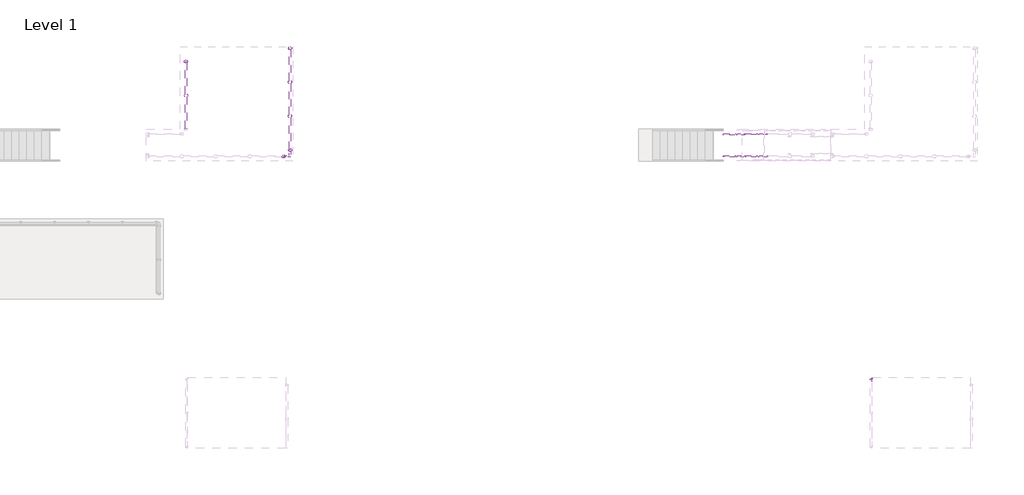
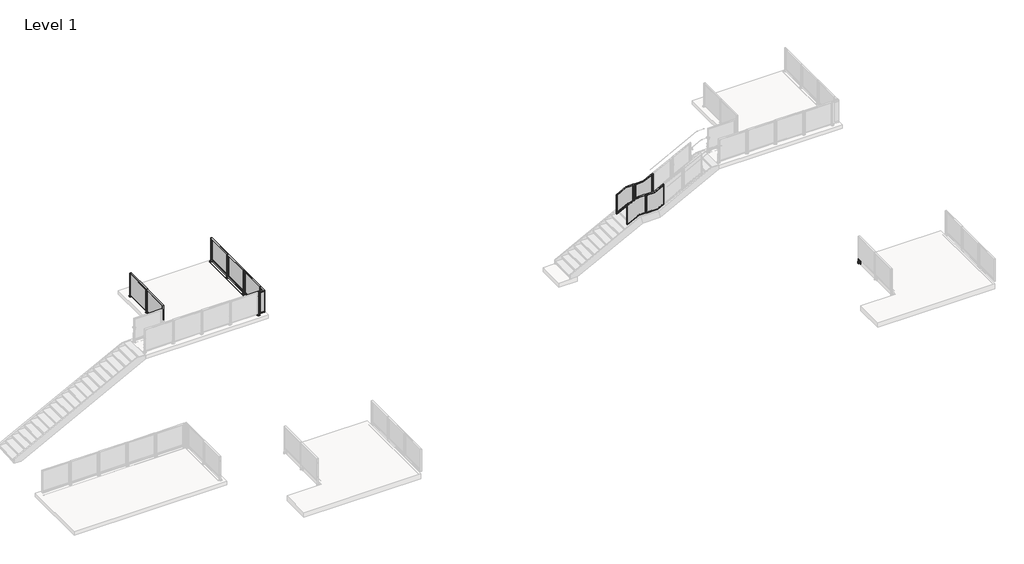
# One storey, part 32 of 37: 7 railings, 5 proxies.
"""IFC4 building model written with IfcOpenShell, lengths in millimetres."""

from ifc_helpers import new_model, si_unit, point, frame, frame_2d, origin, place, context, project, spatial, polyline, circle_curve, trimmed, segment, composite_curve, outline, extrude, faceted_brep, transform, mapped, element, save
from ifc_brep_helpers import plane_surface, cylinder_surface, advanced_brep
from components import baluster_end_post_viva_frame_top_mount_933f940f, baluster_end_post_viva_frame_top_mount_dbc33080, baluster_end_post_viva_frame_top_mount_933cdb12, baluster_end_post_viva_frame_top_mount_welded_fascia_mount_f3869cb3, baluster_corner_panel_viva_frame_inside_standard_882b99be, baluster_landing_panel_viva_frame_lower_standard_pp01_a1165722, baluster_landing_panel_viva_frame_lower_standard_pp01_71fd184b, baluster_landing_panel_viva_frame_upper_standard_pp01_df324889, baluster_landing_panel_viva_frame_upper_standard_pp01_eb854fba

model = new_model("IFC4")

# Units and contexts
model_context = context("Model", 3, world=origin())
ifc_project = project(units=[si_unit("LENGTHUNIT", "METRE", prefix="MILLI")], contexts=[model_context])

# Site, building, storey
site = spatial("IfcSite", under=ifc_project)
building = spatial("IfcBuilding", under=site)
storey = spatial("IfcBuildingStorey", under=building, Name="Level 1", Elevation=0.0)

# Proxies
placement = place(None, origin())
baluster_end_post_viva_frame_top_mount_shape = baluster_end_post_viva_frame_top_mount_933f940f(model_context)
element("IfcBuildingElementProxy", 1, Name="Baluster-End-Post-VIVA-FRAME-Top Mount : CORED INTO CONCRETE_TOP MOUNT FOLD_STRAIGHT", ObjectType="Baluster-End-Post-VIVA-FRAME-Top Mount : CORED INTO CONCRETE_TOP MOUNT FOLD_STRAIGHT", at=placement, inside=storey, context=model_context, shape_type="MappedRepresentation", body=[
    mapped(baluster_end_post_viva_frame_top_mount_shape, transform((-27796.1377244, 8746.3986722, 3047.492), x_axis=(0.0, 1.0, 0.0), y_axis=(-1.0, 0.0, 0.0), z_axis=(0.0, 0.0, 1.0))),
])
baluster_end_post_viva_frame_top_mount_2_shape = baluster_end_post_viva_frame_top_mount_dbc33080(model_context)
element("IfcBuildingElementProxy", 2, Name="Baluster-End-Post-VIVA-FRAME-Top Mount : CORED INTO CONCRETE_TOP MOUNT FOLD_STRAIGHT", ObjectType="Baluster-End-Post-VIVA-FRAME-Top Mount : CORED INTO CONCRETE_TOP MOUNT FOLD_STRAIGHT", at=placement, inside=storey, context=model_context, shape_type="MappedRepresentation", body=[
    mapped(baluster_end_post_viva_frame_top_mount_2_shape, transform((-27936.8813244, 8605.5937722, 3047.492), x_axis=(1.0, 0.0, 0.0), y_axis=(0.0, 1.0, 0.0), z_axis=(0.0, 0.0, 1.0))),
])
baluster_end_post_viva_frame_top_mount_3_shape = baluster_end_post_viva_frame_top_mount_933cdb12(model_context)
element("IfcBuildingElementProxy", 3, Name="Baluster-End-Post-VIVA-FRAME-Top Mount : CORED INTO CONCRETE_TOP MOUNT FOLD_STRAIGHT", ObjectType="Baluster-End-Post-VIVA-FRAME-Top Mount : CORED INTO CONCRETE_TOP MOUNT FOLD_STRAIGHT", at=placement, inside=storey, context=model_context, shape_type="MappedRepresentation", body=[
    mapped(baluster_end_post_viva_frame_top_mount_3_shape, transform((-31485.7754694, 12061.3663722, 3047.492), x_axis=(0.0, -1.0, 0.0), y_axis=(1.0, 0.0, 0.0), z_axis=(0.0, 0.0, 1.0))),
])
element("IfcBuildingElementProxy", 4, Name="Baluster-End-Post-VIVA-FRAME-Top Mount : CORED INTO CONCRETE_TOP MOUNT FOLD_STRAIGHT", ObjectType="Baluster-End-Post-VIVA-FRAME-Top Mount : CORED INTO CONCRETE_TOP MOUNT FOLD_STRAIGHT", at=placement, inside=storey, context=model_context, shape_type="MappedRepresentation", body=[
    mapped(baluster_end_post_viva_frame_top_mount_2_shape, transform((-27796.1377244, 12556.3986722, 3047.492), x_axis=(0.0, 1.0, 0.0), y_axis=(-1.0, 0.0, 0.0), z_axis=(0.0, 0.0, 1.0))),
])
baluster_end_post_viva_frame_top_mount_welded_fascia_mount_shape = baluster_end_post_viva_frame_top_mount_welded_fascia_mount_f3869cb3(model_context)
element("IfcBuildingElementProxy", 5, Name="Baluster-End-Post-VIVA-FRAME-Top Mount : WELDED Fascia MOUNT FOLD_STRAIGHT", ObjectType="Baluster-End-Post-VIVA-FRAME-Top Mount : WELDED Fascia MOUNT FOLD_STRAIGHT", at=placement, inside=storey, context=model_context, shape_type="MappedRepresentation", body=[
    mapped(baluster_end_post_viva_frame_top_mount_welded_fascia_mount_shape, transform((-5845.6776401, 156.9687275, 3047.492), x_axis=(0.0, -1.0, 0.0), y_axis=(1.0, 0.0, 0.0), z_axis=(0.0, 0.0, 1.0))),
])

# Railings
baluster_corner_panel_viva_frame_inside_standard_shape = baluster_corner_panel_viva_frame_inside_standard_882b99be(model_context)
element("IfcRailing", 6, ObjectType="Baluster-Corner-Panel-VIVA-FRAME : Inside_Standard", at=placement, inside=storey, context=model_context, shape_type="MappedRepresentation", body=[
    mapped(baluster_corner_panel_viva_frame_inside_standard_shape, transform((-27670.2299244, 8479.6859722, 3022.346), x_axis=(0.0, 1.0, 0.0), y_axis=(-1.0, 0.0, 0.0), z_axis=(0.0, 0.0, 1.0))),
])
baluster_landing_panel_viva_frame_lower_standard_pp01_shape = baluster_landing_panel_viva_frame_lower_standard_pp01_a1165722(model_context)
element("IfcRailing", 7, ObjectType="Baluster-Landing-Panel-VIVA-FRAME-Lower : Standard_PP01", at=placement, inside=storey, context=model_context, shape_type="MappedRepresentation", body=[
    mapped(baluster_landing_panel_viva_frame_lower_standard_pp01_shape, transform((-11484.6546311, 8477.3668865, 1733.4542898), x_axis=(0.0, 1.0, 0.0), y_axis=(-1.0, 0.0, 0.0), z_axis=(0.0, 0.0, 1.0))),
])
baluster_landing_panel_viva_frame_lower_standard_pp01_2_shape = baluster_landing_panel_viva_frame_lower_standard_pp01_71fd184b(model_context)
element("IfcRailing", 8, ObjectType="Baluster-Landing-Panel-VIVA-FRAME-Lower : Standard_PP01", at=placement, inside=storey, context=model_context, shape_type="MappedRepresentation", body=[
    mapped(baluster_landing_panel_viva_frame_lower_standard_pp01_2_shape, transform((-11484.6546311, 9375.018258, 1733.4542898), x_axis=(0.0, -1.0, 0.0), y_axis=(1.0, 0.0, 0.0), z_axis=(0.0, 0.0, 1.0))),
])
baluster_landing_panel_viva_frame_upper_standard_pp01_shape = baluster_landing_panel_viva_frame_upper_standard_pp01_df324889(model_context)
element("IfcRailing", 9, ObjectType="Baluster-Landing-Panel-VIVA-FRAME-Upper : Standard_PP01", at=placement, inside=storey, context=model_context, shape_type="MappedRepresentation", body=[
    mapped(baluster_landing_panel_viva_frame_upper_standard_pp01_shape, transform((-10816.5460392, 8422.7024722, 1736.2385299), x_axis=(0.0, 1.0, 0.0), y_axis=(-1.0, 0.0, 0.0), z_axis=(0.0, 0.0, 1.0))),
])
baluster_landing_panel_viva_frame_upper_standard_pp01_2_shape = baluster_landing_panel_viva_frame_upper_standard_pp01_eb854fba(model_context)
element("IfcRailing", 10, ObjectType="Baluster-Landing-Panel-VIVA-FRAME-Upper : Standard_PP01", at=placement, inside=storey, context=model_context, shape_type="MappedRepresentation", body=[
    mapped(baluster_landing_panel_viva_frame_upper_standard_pp01_2_shape, transform((-10816.5460392, 9429.6826722, 1736.2385299), x_axis=(0.0, -1.0, 0.0), y_axis=(1.0, 0.0, 0.0), z_axis=(0.0, 0.0, 1.0))),
])
element("IfcRailing", 11, ObjectType="Metal-Panel-VIVA-FRAME-Top_Core-Straight", at=placement, inside=storey, context=model_context, shape_type="SolidModel", body=[
    extrude(outline(composite_curve([segment(trimmed(circle_curve(frame_2d((3047.746, -31485.7754694)), 0.254), [point((3047.746, -31485.5214694))], [point((3047.746, -31486.0294694))], False, "CARTESIAN"), True, "CONTINUOUS"), segment(trimmed(circle_curve(frame_2d((3047.746, -31485.7754694)), 0.254), [point((3047.746, -31486.0294694))], [point((3047.746, -31485.5214694))], False, "CARTESIAN"), True, "CONTINUOUS")], self_intersect=False)), frame((0.0, 9521.3663722, 0.0), z_axis=(0.0, 1.0, 0.0), x_axis=(0.0, 0.0, 1.0)), (0.0, 0.0, 1.0), 2540.0),
    extrude(outline(composite_curve([segment(trimmed(circle_curve(frame_2d((3047.746, -31485.7754694)), 0.254), [point((3047.746, -31485.5214694))], [point((3047.746, -31486.0294694))], False, "CARTESIAN"), True, "CONTINUOUS"), segment(trimmed(circle_curve(frame_2d((3047.746, -31485.7754694)), 0.254), [point((3047.746, -31486.0294694))], [point((3047.746, -31485.5214694))], False, "CARTESIAN"), True, "CONTINUOUS")], self_intersect=False)), frame((0.0, 9521.3663722, 0.0), z_axis=(0.0, 1.0, 0.0), x_axis=(0.0, 0.0, 1.0)), (0.0, 0.0, 1.0), 2540.0),
    extrude(outline(polyline([(-31608.5858694, 10832.1928291), (-31608.5858694, 12020.5399153), (-31605.5858694, 12020.5399153), (-31605.5858694, 10832.1928291), (-31608.5858694, 10832.1928291)])), frame((0.0, 0.0, 3124.1959569), z_axis=(0.0, 0.0, 1.0), x_axis=(1.0, 0.0, 0.0)), (0.0, 0.0, 1.0), 990.5826861),
    faceted_brep([(-31608.5858694, 10806.7928291, 4140.1786431), (-31608.5858694, 12045.9399153, 4140.1786431), (-31608.5858694, 12045.9399153, 3098.7959569), (-31608.5858694, 10806.7928291, 3098.7959569), (-31608.5858694, 10832.1928291, 4114.7786431), (-31608.5858694, 10832.1928291, 3124.1959569), (-31608.5858694, 12020.5399153, 3124.1959569), (-31608.5858694, 12020.5399153, 4114.7786431), (-31605.5858694, 10832.1928291, 3124.1959569), (-31605.5858694, 12020.5399153, 3124.1959569), (-31605.5858694, 12020.5399153, 4114.7786431), (-31605.5858694, 10832.1928291, 4114.7786431), (-31554.7858694, 10812.7872291, 3104.7903569), (-31554.7858694, 12039.9455153, 3104.7903569), (-31585.5960694, 12039.9455153, 3104.7903569), (-31585.5960694, 10812.7872291, 3104.7903569), (-31554.7858694, 12039.9455153, 4134.1842431), (-31585.5960694, 12039.9455153, 4134.1842431), (-31585.5960694, 10812.7872291, 4134.1842431), (-31554.7858694, 10812.7872291, 4134.1842431), (-31554.7858694, 12045.9399153, 3098.7959569), (-31554.7858694, 12045.9399153, 4140.1786431), (-31554.7858694, 10806.7928291, 4140.1786431), (-31554.7858694, 10806.7928291, 3098.7959569), (-31605.5858694, 10857.5928291, 4089.3786431), (-31605.5858694, 10857.5928291, 3149.5959569), (-31605.5858694, 11995.1399153, 3149.5959569), (-31605.5858694, 11995.1399153, 4089.3786431), (-31585.5960694, 11995.1399153, 3149.5959569), (-31585.5960694, 10857.5928291, 3149.5959569), (-31585.5960694, 10857.5928291, 4089.3786431), (-31585.5960694, 11995.1399153, 4089.3786431)], [[[0, 1, 2, 3], [4, 5, 6, 7]], [[5, 8, 9, 6]], [[6, 9, 10, 7]], [[7, 10, 11, 4]], [[4, 11, 8, 5]], [[12, 13, 14, 15]], [[13, 16, 17, 14]], [[15, 18, 19, 12]], [[20, 21, 22, 23], [12, 19, 16, 13]], [[23, 22, 0, 3]], [[23, 3, 2, 20]], [[2, 1, 21, 20]], [[22, 21, 1, 0]], [[11, 10, 9, 8], [24, 25, 26, 27]], [[14, 17, 18, 15], [28, 29, 30, 31]], [[18, 17, 16, 19]], [[27, 31, 30, 24]], [[26, 28, 31, 27]], [[25, 29, 28, 26]], [[24, 30, 29, 25]]]),
    extrude(outline(composite_curve([segment(trimmed(circle_curve(frame_2d((-31581.6858694, 10791.3663722)), 65.8876), [point((-31647.5734694, 10791.3663722))], [point((-31515.7982694, 10791.3663722))], False, "CARTESIAN"), True, "CONTINUOUS"), segment(trimmed(circle_curve(frame_2d((-31581.6858694, 10791.3663722)), 65.8876), [point((-31515.7982694, 10791.3663722))], [point((-31647.5734694, 10791.3663722))], False, "CARTESIAN"), True, "CONTINUOUS")], self_intersect=False)), frame((0.0, 0.0, 3048.0), z_axis=(0.0, 0.0, 1.0), x_axis=(1.0, 0.0, 0.0)), (0.0, 0.0, 1.0), 2.9821299),
    advanced_brep(
    [(-31581.6858694, 10765.1789722, 3178.1496), (-31581.6858694, 10765.1789722, 3187.7), (-31581.6858694, 10765.1789722, 3197.2504), (-31581.6858694, 10769.9541722, 3178.1496), (-31581.6858694, 10769.9541722, 3197.2504), (-31581.6858694, 10769.9541722, 3182.9248), (-31581.6858694, 10769.9541722, 3192.4752), (-31581.6858694, 10812.7785722, 3182.9248), (-31581.6858694, 10812.7785722, 3192.4752), (-31581.6858694, 10812.7785722, 3178.1496), (-31581.6858694, 10812.7785722, 3197.2504), (-31581.6858694, 10817.5537722, 3178.1496), (-31581.6858694, 10817.5537722, 3197.2504), (-31581.6858694, 10817.5537722, 3187.7)],
    [
        (0, 1),
        (1, 2),
        (2, 0, circle_curve(frame((-31581.6858694, 10765.1789722, 3187.7), z_axis=(0.0, -1.0, 0.0), x_axis=(0.0, 0.0, 1.0)), 9.5504)),
        (0, 2, circle_curve(frame((-31581.6858694, 10765.1789722, 3187.7), z_axis=(0.0, -1.0, 0.0), x_axis=(0.0, 0.0, 1.0)), 9.5504)),
        (3, 0),
        (2, 4),
        (4, 3, circle_curve(frame((-31581.6858694, 10769.9541722, 3187.7), z_axis=(0.0, -1.0, 0.0), x_axis=(0.0, 0.0, 1.0)), 9.5504)),
        (3, 4, circle_curve(frame((-31581.6858694, 10769.9541722, 3187.7), z_axis=(0.0, -1.0, 0.0), x_axis=(0.0, 0.0, 1.0)), 9.5504)),
        (5, 3),
        (4, 6),
        (6, 5, circle_curve(frame((-31581.6858694, 10769.9541722, 3187.7), z_axis=(0.0, -1.0, 0.0), x_axis=(0.0, 0.0, 1.0)), 4.7752)),
        (5, 6, circle_curve(frame((-31581.6858694, 10769.9541722, 3187.7), z_axis=(0.0, -1.0, 0.0), x_axis=(0.0, 0.0, 1.0)), 4.7752)),
        (7, 5),
        (6, 8),
        (8, 7, circle_curve(frame((-31581.6858694, 10812.7785722, 3187.7), z_axis=(0.0, -1.0, 0.0), x_axis=(0.0, 0.0, 1.0)), 4.7752)),
        (7, 8, circle_curve(frame((-31581.6858694, 10812.7785722, 3187.7), z_axis=(0.0, -1.0, 0.0), x_axis=(0.0, 0.0, 1.0)), 4.7752)),
        (9, 7),
        (8, 10),
        (10, 9, circle_curve(frame((-31581.6858694, 10812.7785722, 3187.7), z_axis=(0.0, -1.0, 0.0), x_axis=(0.0, 0.0, 1.0)), 9.5504)),
        (9, 10, circle_curve(frame((-31581.6858694, 10812.7785722, 3187.7), z_axis=(0.0, -1.0, 0.0), x_axis=(0.0, 0.0, 1.0)), 9.5504)),
        (11, 9),
        (10, 12),
        (12, 11, circle_curve(frame((-31581.6858694, 10817.5537722, 3187.7), z_axis=(0.0, -1.0, 0.0), x_axis=(0.0, 0.0, 1.0)), 9.5504)),
        (11, 12, circle_curve(frame((-31581.6858694, 10817.5537722, 3187.7), z_axis=(0.0, -1.0, 0.0), x_axis=(0.0, 0.0, 1.0)), 9.5504)),
        (13, 11),
        (12, 13),
    ],
    [
        plane_surface(frame((-31581.6858694, 10765.1789722, 3187.7), z_axis=(0.0, -1.0, 0.0), x_axis=(0.0, 0.0, 1.0))),
        cylinder_surface(frame((-31581.6858694, 7373.5986151, 3187.7), z_axis=(0.0, 1.0, 0.0), x_axis=(0.0, 0.0, 1.0)), 9.5504),
        plane_surface(frame((-31581.6858694, 10769.9541722, 3187.7), z_axis=(0.0, 1.0, 0.0), x_axis=(0.0, 0.0, 1.0))),
        cylinder_surface(frame((-31581.6858694, 7373.5986151, 3187.7), z_axis=(0.0, 1.0, 0.0), x_axis=(0.0, 0.0, 1.0)), 4.7752),
        plane_surface(frame((-31581.6858694, 10812.7785722, 3187.7), z_axis=(0.0, -1.0, 0.0), x_axis=(0.0, 0.0, 1.0))),
        plane_surface(frame((-31581.6858694, 10817.5537722, 3187.7), z_axis=(0.0, 1.0, 0.0), x_axis=(0.0, 0.0, 1.0))),
    ],
    [
        (0, [[1, 2, 3]]),
        (0, [[-2, -1, 4]]),
        (1, [[5, -3, 6, 7]]),
        (1, [[-6, -4, -5, 8]]),
        (2, [[9, -7, 10, 11]]),
        (2, [[-10, -8, -9, 12]]),
        (3, [[13, -11, 14, 15]]),
        (3, [[-14, -12, -13, 16]]),
        (4, [[17, -15, 18, 19]]),
        (4, [[-18, -16, -17, 20]]),
        (1, [[21, -19, 22, 23]]),
        (1, [[-22, -20, -21, 24]]),
        (5, [[25, -23, 26]]),
        (5, [[-26, -24, -25]]),
    ],
),
    advanced_brep(
    [(-31581.6858694, 10765.1789722, 3419.4496), (-31581.6858694, 10765.1789722, 3429.0), (-31581.6858694, 10765.1789722, 3438.5504), (-31581.6858694, 10769.9541722, 3419.4496), (-31581.6858694, 10769.9541722, 3438.5504), (-31581.6858694, 10769.9541722, 3424.2248), (-31581.6858694, 10769.9541722, 3433.7752), (-31581.6858694, 10812.7785722, 3424.2248), (-31581.6858694, 10812.7785722, 3433.7752), (-31581.6858694, 10812.7785722, 3419.4496), (-31581.6858694, 10812.7785722, 3438.5504), (-31581.6858694, 10817.5537722, 3419.4496), (-31581.6858694, 10817.5537722, 3438.5504), (-31581.6858694, 10817.5537722, 3429.0)],
    [
        (0, 1),
        (1, 2),
        (2, 0, circle_curve(frame((-31581.6858694, 10765.1789722, 3429.0), z_axis=(0.0, -1.0, 0.0), x_axis=(0.0, 0.0, 1.0)), 9.5504)),
        (0, 2, circle_curve(frame((-31581.6858694, 10765.1789722, 3429.0), z_axis=(0.0, -1.0, 0.0), x_axis=(0.0, 0.0, 1.0)), 9.5504)),
        (3, 0),
        (2, 4),
        (4, 3, circle_curve(frame((-31581.6858694, 10769.9541722, 3429.0), z_axis=(0.0, -1.0, 0.0), x_axis=(0.0, 0.0, 1.0)), 9.5504)),
        (3, 4, circle_curve(frame((-31581.6858694, 10769.9541722, 3429.0), z_axis=(0.0, -1.0, 0.0), x_axis=(0.0, 0.0, 1.0)), 9.5504)),
        (5, 3),
        (4, 6),
        (6, 5, circle_curve(frame((-31581.6858694, 10769.9541722, 3429.0), z_axis=(0.0, -1.0, 0.0), x_axis=(0.0, 0.0, 1.0)), 4.7752)),
        (5, 6, circle_curve(frame((-31581.6858694, 10769.9541722, 3429.0), z_axis=(0.0, -1.0, 0.0), x_axis=(0.0, 0.0, 1.0)), 4.7752)),
        (7, 5),
        (6, 8),
        (8, 7, circle_curve(frame((-31581.6858694, 10812.7785722, 3429.0), z_axis=(0.0, -1.0, 0.0), x_axis=(0.0, 0.0, 1.0)), 4.7752)),
        (7, 8, circle_curve(frame((-31581.6858694, 10812.7785722, 3429.0), z_axis=(0.0, -1.0, 0.0), x_axis=(0.0, 0.0, 1.0)), 4.7752)),
        (9, 7),
        (8, 10),
        (10, 9, circle_curve(frame((-31581.6858694, 10812.7785722, 3429.0), z_axis=(0.0, -1.0, 0.0), x_axis=(0.0, 0.0, 1.0)), 9.5504)),
        (9, 10, circle_curve(frame((-31581.6858694, 10812.7785722, 3429.0), z_axis=(0.0, -1.0, 0.0), x_axis=(0.0, 0.0, 1.0)), 9.5504)),
        (11, 9),
        (10, 12),
        (12, 11, circle_curve(frame((-31581.6858694, 10817.5537722, 3429.0), z_axis=(0.0, -1.0, 0.0), x_axis=(0.0, 0.0, 1.0)), 9.5504)),
        (11, 12, circle_curve(frame((-31581.6858694, 10817.5537722, 3429.0), z_axis=(0.0, -1.0, 0.0), x_axis=(0.0, 0.0, 1.0)), 9.5504)),
        (13, 11),
        (12, 13),
    ],
    [
        plane_surface(frame((-31581.6858694, 10765.1789722, 3429.0), z_axis=(0.0, -1.0, 0.0), x_axis=(0.0, 0.0, 1.0))),
        cylinder_surface(frame((-31581.6858694, 7373.5986151, 3429.0), z_axis=(0.0, 1.0, 0.0), x_axis=(0.0, 0.0, 1.0)), 9.5504),
        plane_surface(frame((-31581.6858694, 10769.9541722, 3429.0), z_axis=(0.0, 1.0, 0.0), x_axis=(0.0, 0.0, 1.0))),
        cylinder_surface(frame((-31581.6858694, 7373.5986151, 3429.0), z_axis=(0.0, 1.0, 0.0), x_axis=(0.0, 0.0, 1.0)), 4.7752),
        plane_surface(frame((-31581.6858694, 10812.7785722, 3429.0), z_axis=(0.0, -1.0, 0.0), x_axis=(0.0, 0.0, 1.0))),
        plane_surface(frame((-31581.6858694, 10817.5537722, 3429.0), z_axis=(0.0, 1.0, 0.0), x_axis=(0.0, 0.0, 1.0))),
    ],
    [
        (0, [[1, 2, 3]]),
        (0, [[-2, -1, 4]]),
        (1, [[5, -3, 6, 7]]),
        (1, [[-6, -4, -5, 8]]),
        (2, [[9, -7, 10, 11]]),
        (2, [[-10, -8, -9, 12]]),
        (3, [[13, -11, 14, 15]]),
        (3, [[-14, -12, -13, 16]]),
        (4, [[17, -15, 18, 19]]),
        (4, [[-18, -16, -17, 20]]),
        (1, [[21, -19, 22, 23]]),
        (1, [[-22, -20, -21, 24]]),
        (5, [[25, -23, 26]]),
        (5, [[-26, -24, -25]]),
    ],
),
    extrude(outline(polyline([(-31559.4608694, 10783.4267806), (-31603.9108694, 10783.4267806), (-31603.9108694, 10799.3059639), (-31559.4608694, 10799.3059639), (-31559.4608694, 10783.4267806)])), frame((0.0, 0.0, 2946.4), z_axis=(0.0, 0.0, 1.0), x_axis=(1.0, 0.0, 0.0)), (0.0, 0.0, 1.0), 508.0),
    extrude(outline(polyline([(-31608.5858694, 9562.1928291), (-31608.5858694, 10750.5399153), (-31605.5858694, 10750.5399153), (-31605.5858694, 9562.1928291), (-31608.5858694, 9562.1928291)])), frame((0.0, 0.0, 3124.1959569), z_axis=(0.0, 0.0, 1.0), x_axis=(1.0, 0.0, 0.0)), (0.0, 0.0, 1.0), 990.5826861),
    faceted_brep([(-31608.5858694, 9536.7928291, 4140.1786431), (-31608.5858694, 10775.9399153, 4140.1786431), (-31608.5858694, 10775.9399153, 3098.7959569), (-31608.5858694, 9536.7928291, 3098.7959569), (-31608.5858694, 9562.1928291, 4114.7786431), (-31608.5858694, 9562.1928291, 3124.1959569), (-31608.5858694, 10750.5399153, 3124.1959569), (-31608.5858694, 10750.5399153, 4114.7786431), (-31605.5858694, 9562.1928291, 3124.1959569), (-31605.5858694, 10750.5399153, 3124.1959569), (-31605.5858694, 10750.5399153, 4114.7786431), (-31605.5858694, 9562.1928291, 4114.7786431), (-31554.7858694, 9542.7872291, 3104.7903569), (-31554.7858694, 10769.9455153, 3104.7903569), (-31585.5960694, 10769.9455153, 3104.7903569), (-31585.5960694, 9542.7872291, 3104.7903569), (-31554.7858694, 10769.9455153, 4134.1842431), (-31585.5960694, 10769.9455153, 4134.1842431), (-31585.5960694, 9542.7872291, 4134.1842431), (-31554.7858694, 9542.7872291, 4134.1842431), (-31554.7858694, 10775.9399153, 3098.7959569), (-31554.7858694, 10775.9399153, 4140.1786431), (-31554.7858694, 9536.7928291, 4140.1786431), (-31554.7858694, 9536.7928291, 3098.7959569), (-31605.5858694, 9587.5928291, 4089.3786431), (-31605.5858694, 9587.5928291, 3149.5959569), (-31605.5858694, 10725.1399153, 3149.5959569), (-31605.5858694, 10725.1399153, 4089.3786431), (-31585.5960694, 10725.1399153, 3149.5959569), (-31585.5960694, 9587.5928291, 3149.5959569), (-31585.5960694, 9587.5928291, 4089.3786431), (-31585.5960694, 10725.1399153, 4089.3786431)], [[[0, 1, 2, 3], [4, 5, 6, 7]], [[5, 8, 9, 6]], [[6, 9, 10, 7]], [[7, 10, 11, 4]], [[4, 11, 8, 5]], [[12, 13, 14, 15]], [[13, 16, 17, 14]], [[15, 18, 19, 12]], [[20, 21, 22, 23], [12, 19, 16, 13]], [[23, 22, 0, 3]], [[23, 3, 2, 20]], [[2, 1, 21, 20]], [[22, 21, 1, 0]], [[11, 10, 9, 8], [24, 25, 26, 27]], [[14, 17, 18, 15], [28, 29, 30, 31]], [[18, 17, 16, 19]], [[27, 31, 30, 24]], [[26, 28, 31, 27]], [[25, 29, 28, 26]], [[24, 30, 29, 25]]]),
])
element("IfcRailing", 12, ObjectType="Metal-Panel-VIVA-FRAME-Top_Core-Straight", at=placement, inside=storey, context=model_context, shape_type="SolidModel", body=[
    extrude(outline(composite_curve([segment(trimmed(circle_curve(frame_2d((3047.746, -27796.1377244)), 0.254), [point((3047.746, -27795.8837244))], [point((3047.746, -27796.3917244))], False, "CARTESIAN"), True, "CONTINUOUS"), segment(trimmed(circle_curve(frame_2d((3047.746, -27796.1377244)), 0.254), [point((3047.746, -27796.3917244))], [point((3047.746, -27795.8837244))], False, "CARTESIAN"), True, "CONTINUOUS")], self_intersect=False)), frame((0.0, 8746.3986722, 0.0), z_axis=(0.0, 1.0, 0.0), x_axis=(0.0, 0.0, 1.0)), (0.0, 0.0, 1.0), 3810.0),
    extrude(outline(composite_curve([segment(trimmed(circle_curve(frame_2d((3047.746, -27796.1377244)), 0.254), [point((3047.746, -27795.8837244))], [point((3047.746, -27796.3917244))], False, "CARTESIAN"), True, "CONTINUOUS"), segment(trimmed(circle_curve(frame_2d((3047.746, -27796.1377244)), 0.254), [point((3047.746, -27796.3917244))], [point((3047.746, -27795.8837244))], False, "CARTESIAN"), True, "CONTINUOUS")], self_intersect=False)), frame((0.0, 8746.3986722, 0.0), z_axis=(0.0, 1.0, 0.0), x_axis=(0.0, 0.0, 1.0)), (0.0, 0.0, 1.0), 3810.0),
    extrude(outline(polyline([(-27673.3273244, 11327.2251291), (-27676.3273244, 11327.2251291), (-27676.3273244, 12515.5722153), (-27673.3273244, 12515.5722153), (-27673.3273244, 11327.2251291)])), frame((0.0, 0.0, 3124.1959569), z_axis=(0.0, 0.0, 1.0), x_axis=(1.0, 0.0, 0.0)), (0.0, 0.0, 1.0), 990.5826861),
    faceted_brep([(-27673.3273244, 11301.8251291, 4140.1786431), (-27673.3273244, 11301.8251291, 3098.7959569), (-27673.3273244, 12540.9722153, 3098.7959569), (-27673.3273244, 12540.9722153, 4140.1786431), (-27673.3273244, 11327.2251291, 4114.7786431), (-27673.3273244, 12515.5722153, 4114.7786431), (-27673.3273244, 12515.5722153, 3124.1959569), (-27673.3273244, 11327.2251291, 3124.1959569), (-27676.3273244, 12515.5722153, 3124.1959569), (-27676.3273244, 11327.2251291, 3124.1959569), (-27676.3273244, 12515.5722153, 4114.7786431), (-27676.3273244, 11327.2251291, 4114.7786431), (-27727.1273244, 11307.8195291, 3104.7903569), (-27696.3171244, 11307.8195291, 3104.7903569), (-27696.3171244, 12534.9778153, 3104.7903569), (-27727.1273244, 12534.9778153, 3104.7903569), (-27696.3171244, 12534.9778153, 4134.1842431), (-27727.1273244, 12534.9778153, 4134.1842431), (-27727.1273244, 11307.8195291, 4134.1842431), (-27696.3171244, 11307.8195291, 4134.1842431), (-27727.1273244, 12540.9722153, 3098.7959569), (-27727.1273244, 11301.8251291, 3098.7959569), (-27727.1273244, 11301.8251291, 4140.1786431), (-27727.1273244, 12540.9722153, 4140.1786431), (-27676.3273244, 11352.6251291, 4089.3786431), (-27676.3273244, 12490.1722153, 4089.3786431), (-27676.3273244, 12490.1722153, 3149.5959569), (-27676.3273244, 11352.6251291, 3149.5959569), (-27696.3171244, 12490.1722153, 3149.5959569), (-27696.3171244, 12490.1722153, 4089.3786431), (-27696.3171244, 11352.6251291, 4089.3786431), (-27696.3171244, 11352.6251291, 3149.5959569)], [[[0, 1, 2, 3], [4, 5, 6, 7]], [[7, 6, 8, 9]], [[6, 5, 10, 8]], [[5, 4, 11, 10]], [[4, 7, 9, 11]], [[12, 13, 14, 15]], [[15, 14, 16, 17]], [[13, 12, 18, 19]], [[20, 21, 22, 23], [12, 15, 17, 18]], [[21, 1, 0, 22]], [[21, 20, 2, 1]], [[2, 20, 23, 3]], [[22, 0, 3, 23]], [[11, 9, 8, 10], [24, 25, 26, 27]], [[14, 13, 19, 16], [28, 29, 30, 31]], [[19, 18, 17, 16]], [[25, 24, 30, 29]], [[26, 25, 29, 28]], [[27, 26, 28, 31]], [[24, 27, 31, 30]]]),
    extrude(outline(composite_curve([segment(trimmed(circle_curve(frame_2d((-27700.2273244, 11286.3986722)), 65.8876), [point((-27634.3397244, 11286.3986722))], [point((-27766.1149244, 11286.3986722))], False, "CARTESIAN"), True, "CONTINUOUS"), segment(trimmed(circle_curve(frame_2d((-27700.2273244, 11286.3986722)), 65.8876), [point((-27766.1149244, 11286.3986722))], [point((-27634.3397244, 11286.3986722))], False, "CARTESIAN"), True, "CONTINUOUS")], self_intersect=False)), frame((0.0, 0.0, 3048.0), z_axis=(0.0, 0.0, 1.0), x_axis=(1.0, 0.0, 0.0)), (0.0, 0.0, 1.0), 2.9821299),
    advanced_brep(
    [(-27700.2273244, 11260.2112722, 3178.1496), (-27700.2273244, 11260.2112722, 3197.2504), (-27700.2273244, 11260.2112722, 3187.7), (-27700.2273244, 11264.9864722, 3178.1496), (-27700.2273244, 11264.9864722, 3197.2504), (-27700.2273244, 11264.9864722, 3182.9248), (-27700.2273244, 11264.9864722, 3192.4752), (-27700.2273244, 11307.8108722, 3182.9248), (-27700.2273244, 11307.8108722, 3192.4752), (-27700.2273244, 11307.8108722, 3178.1496), (-27700.2273244, 11307.8108722, 3197.2504), (-27700.2273244, 11312.5860722, 3178.1496), (-27700.2273244, 11312.5860722, 3197.2504), (-27700.2273244, 11312.5860722, 3187.7)],
    [
        (0, 1, circle_curve(frame((-27700.2273244, 11260.2112722, 3187.7), z_axis=(0.0, -1.0, 0.0), x_axis=(0.0, 0.0, 1.0)), 9.5504)),
        (1, 2),
        (2, 0),
        (1, 0, circle_curve(frame((-27700.2273244, 11260.2112722, 3187.7), z_axis=(0.0, -1.0, 0.0), x_axis=(0.0, 0.0, 1.0)), 9.5504)),
        (3, 4, circle_curve(frame((-27700.2273244, 11264.9864722, 3187.7), z_axis=(0.0, -1.0, 0.0), x_axis=(0.0, 0.0, 1.0)), 9.5504)),
        (4, 1),
        (0, 3),
        (4, 3, circle_curve(frame((-27700.2273244, 11264.9864722, 3187.7), z_axis=(0.0, -1.0, 0.0), x_axis=(0.0, 0.0, 1.0)), 9.5504)),
        (5, 6, circle_curve(frame((-27700.2273244, 11264.9864722, 3187.7), z_axis=(0.0, -1.0, 0.0), x_axis=(0.0, 0.0, 1.0)), 4.7752)),
        (6, 4),
        (3, 5),
        (6, 5, circle_curve(frame((-27700.2273244, 11264.9864722, 3187.7), z_axis=(0.0, -1.0, 0.0), x_axis=(0.0, 0.0, 1.0)), 4.7752)),
        (7, 8, circle_curve(frame((-27700.2273244, 11307.8108722, 3187.7), z_axis=(0.0, -1.0, 0.0), x_axis=(0.0, 0.0, 1.0)), 4.7752)),
        (8, 6),
        (5, 7),
        (8, 7, circle_curve(frame((-27700.2273244, 11307.8108722, 3187.7), z_axis=(0.0, -1.0, 0.0), x_axis=(0.0, 0.0, 1.0)), 4.7752)),
        (9, 10, circle_curve(frame((-27700.2273244, 11307.8108722, 3187.7), z_axis=(0.0, -1.0, 0.0), x_axis=(0.0, 0.0, 1.0)), 9.5504)),
        (10, 8),
        (7, 9),
        (10, 9, circle_curve(frame((-27700.2273244, 11307.8108722, 3187.7), z_axis=(0.0, -1.0, 0.0), x_axis=(0.0, 0.0, 1.0)), 9.5504)),
        (11, 12, circle_curve(frame((-27700.2273244, 11312.5860722, 3187.7), z_axis=(0.0, -1.0, 0.0), x_axis=(0.0, 0.0, 1.0)), 9.5504)),
        (12, 10),
        (9, 11),
        (12, 11, circle_curve(frame((-27700.2273244, 11312.5860722, 3187.7), z_axis=(0.0, -1.0, 0.0), x_axis=(0.0, 0.0, 1.0)), 9.5504)),
        (13, 12),
        (11, 13),
    ],
    [
        plane_surface(frame((-27700.2273244, 11260.2112722, 3187.7), z_axis=(0.0, -1.0, 0.0), x_axis=(0.0, 0.0, 1.0))),
        cylinder_surface(frame((-27700.2273244, 7868.6309151, 3187.7), z_axis=(0.0, 1.0, 0.0), x_axis=(0.0, 0.0, 1.0)), 9.5504),
        plane_surface(frame((-27700.2273244, 11264.9864722, 3187.7), z_axis=(0.0, 1.0, 0.0), x_axis=(0.0, 0.0, 1.0))),
        cylinder_surface(frame((-27700.2273244, 7868.6309151, 3187.7), z_axis=(0.0, 1.0, 0.0), x_axis=(0.0, 0.0, 1.0)), 4.7752),
        plane_surface(frame((-27700.2273244, 11307.8108722, 3187.7), z_axis=(0.0, -1.0, 0.0), x_axis=(0.0, 0.0, 1.0))),
        plane_surface(frame((-27700.2273244, 11312.5860722, 3187.7), z_axis=(0.0, 1.0, 0.0), x_axis=(0.0, 0.0, 1.0))),
    ],
    [
        (0, [[1, 2, 3]]),
        (0, [[4, -3, -2]]),
        (1, [[5, 6, -1, 7]]),
        (1, [[8, -7, -4, -6]]),
        (2, [[9, 10, -5, 11]]),
        (2, [[12, -11, -8, -10]]),
        (3, [[13, 14, -9, 15]]),
        (3, [[16, -15, -12, -14]]),
        (4, [[17, 18, -13, 19]]),
        (4, [[20, -19, -16, -18]]),
        (1, [[21, 22, -17, 23]]),
        (1, [[24, -23, -20, -22]]),
        (5, [[25, -21, 26]]),
        (5, [[-26, -24, -25]]),
    ],
),
    advanced_brep(
    [(-27700.2273244, 11260.2112722, 3419.4496), (-27700.2273244, 11260.2112722, 3438.5504), (-27700.2273244, 11260.2112722, 3429.0), (-27700.2273244, 11264.9864722, 3419.4496), (-27700.2273244, 11264.9864722, 3438.5504), (-27700.2273244, 11264.9864722, 3424.2248), (-27700.2273244, 11264.9864722, 3433.7752), (-27700.2273244, 11307.8108722, 3424.2248), (-27700.2273244, 11307.8108722, 3433.7752), (-27700.2273244, 11307.8108722, 3419.4496), (-27700.2273244, 11307.8108722, 3438.5504), (-27700.2273244, 11312.5860722, 3419.4496), (-27700.2273244, 11312.5860722, 3438.5504), (-27700.2273244, 11312.5860722, 3429.0)],
    [
        (0, 1, circle_curve(frame((-27700.2273244, 11260.2112722, 3429.0), z_axis=(0.0, -1.0, 0.0), x_axis=(0.0, 0.0, 1.0)), 9.5504)),
        (1, 2),
        (2, 0),
        (1, 0, circle_curve(frame((-27700.2273244, 11260.2112722, 3429.0), z_axis=(0.0, -1.0, 0.0), x_axis=(0.0, 0.0, 1.0)), 9.5504)),
        (3, 4, circle_curve(frame((-27700.2273244, 11264.9864722, 3429.0), z_axis=(0.0, -1.0, 0.0), x_axis=(0.0, 0.0, 1.0)), 9.5504)),
        (4, 1),
        (0, 3),
        (4, 3, circle_curve(frame((-27700.2273244, 11264.9864722, 3429.0), z_axis=(0.0, -1.0, 0.0), x_axis=(0.0, 0.0, 1.0)), 9.5504)),
        (5, 6, circle_curve(frame((-27700.2273244, 11264.9864722, 3429.0), z_axis=(0.0, -1.0, 0.0), x_axis=(0.0, 0.0, 1.0)), 4.7752)),
        (6, 4),
        (3, 5),
        (6, 5, circle_curve(frame((-27700.2273244, 11264.9864722, 3429.0), z_axis=(0.0, -1.0, 0.0), x_axis=(0.0, 0.0, 1.0)), 4.7752)),
        (7, 8, circle_curve(frame((-27700.2273244, 11307.8108722, 3429.0), z_axis=(0.0, -1.0, 0.0), x_axis=(0.0, 0.0, 1.0)), 4.7752)),
        (8, 6),
        (5, 7),
        (8, 7, circle_curve(frame((-27700.2273244, 11307.8108722, 3429.0), z_axis=(0.0, -1.0, 0.0), x_axis=(0.0, 0.0, 1.0)), 4.7752)),
        (9, 10, circle_curve(frame((-27700.2273244, 11307.8108722, 3429.0), z_axis=(0.0, -1.0, 0.0), x_axis=(0.0, 0.0, 1.0)), 9.5504)),
        (10, 8),
        (7, 9),
        (10, 9, circle_curve(frame((-27700.2273244, 11307.8108722, 3429.0), z_axis=(0.0, -1.0, 0.0), x_axis=(0.0, 0.0, 1.0)), 9.5504)),
        (11, 12, circle_curve(frame((-27700.2273244, 11312.5860722, 3429.0), z_axis=(0.0, -1.0, 0.0), x_axis=(0.0, 0.0, 1.0)), 9.5504)),
        (12, 10),
        (9, 11),
        (12, 11, circle_curve(frame((-27700.2273244, 11312.5860722, 3429.0), z_axis=(0.0, -1.0, 0.0), x_axis=(0.0, 0.0, 1.0)), 9.5504)),
        (13, 12),
        (11, 13),
    ],
    [
        plane_surface(frame((-27700.2273244, 11260.2112722, 3429.0), z_axis=(0.0, -1.0, 0.0), x_axis=(0.0, 0.0, 1.0))),
        cylinder_surface(frame((-27700.2273244, 7868.6309151, 3429.0), z_axis=(0.0, 1.0, 0.0), x_axis=(0.0, 0.0, 1.0)), 9.5504),
        plane_surface(frame((-27700.2273244, 11264.9864722, 3429.0), z_axis=(0.0, 1.0, 0.0), x_axis=(0.0, 0.0, 1.0))),
        cylinder_surface(frame((-27700.2273244, 7868.6309151, 3429.0), z_axis=(0.0, 1.0, 0.0), x_axis=(0.0, 0.0, 1.0)), 4.7752),
        plane_surface(frame((-27700.2273244, 11307.8108722, 3429.0), z_axis=(0.0, -1.0, 0.0), x_axis=(0.0, 0.0, 1.0))),
        plane_surface(frame((-27700.2273244, 11312.5860722, 3429.0), z_axis=(0.0, 1.0, 0.0), x_axis=(0.0, 0.0, 1.0))),
    ],
    [
        (0, [[1, 2, 3]]),
        (0, [[4, -3, -2]]),
        (1, [[5, 6, -1, 7]]),
        (1, [[8, -7, -4, -6]]),
        (2, [[9, 10, -5, 11]]),
        (2, [[12, -11, -8, -10]]),
        (3, [[13, 14, -9, 15]]),
        (3, [[16, -15, -12, -14]]),
        (4, [[17, 18, -13, 19]]),
        (4, [[20, -19, -16, -18]]),
        (1, [[21, 22, -17, 23]]),
        (1, [[24, -23, -20, -22]]),
        (5, [[25, -21, 26]]),
        (5, [[-26, -24, -25]]),
    ],
),
    extrude(outline(polyline([(-27722.4523244, 11278.4590806), (-27722.4523244, 11294.3382639), (-27678.0023244, 11294.3382639), (-27678.0023244, 11278.4590806), (-27722.4523244, 11278.4590806)])), frame((0.0, 0.0, 2946.4), z_axis=(0.0, 0.0, 1.0), x_axis=(1.0, 0.0, 0.0)), (0.0, 0.0, 1.0), 508.0),
    extrude(outline(polyline([(-27673.3273244, 10057.2251291), (-27676.3273244, 10057.2251291), (-27676.3273244, 11245.5722153), (-27673.3273244, 11245.5722153), (-27673.3273244, 10057.2251291)])), frame((0.0, 0.0, 3124.1959569), z_axis=(0.0, 0.0, 1.0), x_axis=(1.0, 0.0, 0.0)), (0.0, 0.0, 1.0), 990.5826861),
    faceted_brep([(-27673.3273244, 10031.8251291, 4140.1786431), (-27673.3273244, 10031.8251291, 3098.7959569), (-27673.3273244, 11270.9722153, 3098.7959569), (-27673.3273244, 11270.9722153, 4140.1786431), (-27673.3273244, 10057.2251291, 4114.7786431), (-27673.3273244, 11245.5722153, 4114.7786431), (-27673.3273244, 11245.5722153, 3124.1959569), (-27673.3273244, 10057.2251291, 3124.1959569), (-27676.3273244, 11245.5722153, 3124.1959569), (-27676.3273244, 10057.2251291, 3124.1959569), (-27676.3273244, 11245.5722153, 4114.7786431), (-27676.3273244, 10057.2251291, 4114.7786431), (-27727.1273244, 10037.8195291, 3104.7903569), (-27696.3171244, 10037.8195291, 3104.7903569), (-27696.3171244, 11264.9778153, 3104.7903569), (-27727.1273244, 11264.9778153, 3104.7903569), (-27696.3171244, 11264.9778153, 4134.1842431), (-27727.1273244, 11264.9778153, 4134.1842431), (-27727.1273244, 10037.8195291, 4134.1842431), (-27696.3171244, 10037.8195291, 4134.1842431), (-27727.1273244, 11270.9722153, 3098.7959569), (-27727.1273244, 10031.8251291, 3098.7959569), (-27727.1273244, 10031.8251291, 4140.1786431), (-27727.1273244, 11270.9722153, 4140.1786431), (-27676.3273244, 10082.6251291, 4089.3786431), (-27676.3273244, 11220.1722153, 4089.3786431), (-27676.3273244, 11220.1722153, 3149.5959569), (-27676.3273244, 10082.6251291, 3149.5959569), (-27696.3171244, 11220.1722153, 3149.5959569), (-27696.3171244, 11220.1722153, 4089.3786431), (-27696.3171244, 10082.6251291, 4089.3786431), (-27696.3171244, 10082.6251291, 3149.5959569)], [[[0, 1, 2, 3], [4, 5, 6, 7]], [[7, 6, 8, 9]], [[6, 5, 10, 8]], [[5, 4, 11, 10]], [[4, 7, 9, 11]], [[12, 13, 14, 15]], [[15, 14, 16, 17]], [[13, 12, 18, 19]], [[20, 21, 22, 23], [12, 15, 17, 18]], [[21, 1, 0, 22]], [[21, 20, 2, 1]], [[2, 20, 23, 3]], [[22, 0, 3, 23]], [[11, 9, 8, 10], [24, 25, 26, 27]], [[14, 13, 19, 16], [28, 29, 30, 31]], [[19, 18, 17, 16]], [[25, 24, 30, 29]], [[26, 25, 29, 28]], [[27, 26, 28, 31]], [[24, 27, 31, 30]]]),
    extrude(outline(composite_curve([segment(trimmed(circle_curve(frame_2d((-27700.2273244, 10016.3986722)), 65.8876), [point((-27634.3397244, 10016.3986722))], [point((-27766.1149244, 10016.3986722))], False, "CARTESIAN"), True, "CONTINUOUS"), segment(trimmed(circle_curve(frame_2d((-27700.2273244, 10016.3986722)), 65.8876), [point((-27766.1149244, 10016.3986722))], [point((-27634.3397244, 10016.3986722))], False, "CARTESIAN"), True, "CONTINUOUS")], self_intersect=False)), frame((0.0, 0.0, 3048.0), z_axis=(0.0, 0.0, 1.0), x_axis=(1.0, 0.0, 0.0)), (0.0, 0.0, 1.0), 2.9821299),
    advanced_brep(
    [(-27700.2273244, 9990.2112722, 3178.1496), (-27700.2273244, 9990.2112722, 3197.2504), (-27700.2273244, 9990.2112722, 3187.7), (-27700.2273244, 9994.9864722, 3178.1496), (-27700.2273244, 9994.9864722, 3197.2504), (-27700.2273244, 9994.9864722, 3182.9248), (-27700.2273244, 9994.9864722, 3192.4752), (-27700.2273244, 10037.8108722, 3182.9248), (-27700.2273244, 10037.8108722, 3192.4752), (-27700.2273244, 10037.8108722, 3178.1496), (-27700.2273244, 10037.8108722, 3197.2504), (-27700.2273244, 10042.5860722, 3178.1496), (-27700.2273244, 10042.5860722, 3197.2504), (-27700.2273244, 10042.5860722, 3187.7)],
    [
        (0, 1, circle_curve(frame((-27700.2273244, 9990.2112722, 3187.7), z_axis=(0.0, -1.0, 0.0), x_axis=(0.0, 0.0, 1.0)), 9.5504)),
        (1, 2),
        (2, 0),
        (1, 0, circle_curve(frame((-27700.2273244, 9990.2112722, 3187.7), z_axis=(0.0, -1.0, 0.0), x_axis=(0.0, 0.0, 1.0)), 9.5504)),
        (3, 4, circle_curve(frame((-27700.2273244, 9994.9864722, 3187.7), z_axis=(0.0, -1.0, 0.0), x_axis=(0.0, 0.0, 1.0)), 9.5504)),
        (4, 1),
        (0, 3),
        (4, 3, circle_curve(frame((-27700.2273244, 9994.9864722, 3187.7), z_axis=(0.0, -1.0, 0.0), x_axis=(0.0, 0.0, 1.0)), 9.5504)),
        (5, 6, circle_curve(frame((-27700.2273244, 9994.9864722, 3187.7), z_axis=(0.0, -1.0, 0.0), x_axis=(0.0, 0.0, 1.0)), 4.7752)),
        (6, 4),
        (3, 5),
        (6, 5, circle_curve(frame((-27700.2273244, 9994.9864722, 3187.7), z_axis=(0.0, -1.0, 0.0), x_axis=(0.0, 0.0, 1.0)), 4.7752)),
        (7, 8, circle_curve(frame((-27700.2273244, 10037.8108722, 3187.7), z_axis=(0.0, -1.0, 0.0), x_axis=(0.0, 0.0, 1.0)), 4.7752)),
        (8, 6),
        (5, 7),
        (8, 7, circle_curve(frame((-27700.2273244, 10037.8108722, 3187.7), z_axis=(0.0, -1.0, 0.0), x_axis=(0.0, 0.0, 1.0)), 4.7752)),
        (9, 10, circle_curve(frame((-27700.2273244, 10037.8108722, 3187.7), z_axis=(0.0, -1.0, 0.0), x_axis=(0.0, 0.0, 1.0)), 9.5504)),
        (10, 8),
        (7, 9),
        (10, 9, circle_curve(frame((-27700.2273244, 10037.8108722, 3187.7), z_axis=(0.0, -1.0, 0.0), x_axis=(0.0, 0.0, 1.0)), 9.5504)),
        (11, 12, circle_curve(frame((-27700.2273244, 10042.5860722, 3187.7), z_axis=(0.0, -1.0, 0.0), x_axis=(0.0, 0.0, 1.0)), 9.5504)),
        (12, 10),
        (9, 11),
        (12, 11, circle_curve(frame((-27700.2273244, 10042.5860722, 3187.7), z_axis=(0.0, -1.0, 0.0), x_axis=(0.0, 0.0, 1.0)), 9.5504)),
        (13, 12),
        (11, 13),
    ],
    [
        plane_surface(frame((-27700.2273244, 9990.2112722, 3187.7), z_axis=(0.0, -1.0, 0.0), x_axis=(0.0, 0.0, 1.0))),
        cylinder_surface(frame((-27700.2273244, 6598.6309151, 3187.7), z_axis=(0.0, 1.0, 0.0), x_axis=(0.0, 0.0, 1.0)), 9.5504),
        plane_surface(frame((-27700.2273244, 9994.9864722, 3187.7), z_axis=(0.0, 1.0, 0.0), x_axis=(0.0, 0.0, 1.0))),
        cylinder_surface(frame((-27700.2273244, 6598.6309151, 3187.7), z_axis=(0.0, 1.0, 0.0), x_axis=(0.0, 0.0, 1.0)), 4.7752),
        plane_surface(frame((-27700.2273244, 10037.8108722, 3187.7), z_axis=(0.0, -1.0, 0.0), x_axis=(0.0, 0.0, 1.0))),
        plane_surface(frame((-27700.2273244, 10042.5860722, 3187.7), z_axis=(0.0, 1.0, 0.0), x_axis=(0.0, 0.0, 1.0))),
    ],
    [
        (0, [[1, 2, 3]]),
        (0, [[4, -3, -2]]),
        (1, [[5, 6, -1, 7]]),
        (1, [[8, -7, -4, -6]]),
        (2, [[9, 10, -5, 11]]),
        (2, [[12, -11, -8, -10]]),
        (3, [[13, 14, -9, 15]]),
        (3, [[16, -15, -12, -14]]),
        (4, [[17, 18, -13, 19]]),
        (4, [[20, -19, -16, -18]]),
        (1, [[21, 22, -17, 23]]),
        (1, [[24, -23, -20, -22]]),
        (5, [[25, -21, 26]]),
        (5, [[-26, -24, -25]]),
    ],
),
    advanced_brep(
    [(-27700.2273244, 9990.2112722, 3419.4496), (-27700.2273244, 9990.2112722, 3438.5504), (-27700.2273244, 9990.2112722, 3429.0), (-27700.2273244, 9994.9864722, 3419.4496), (-27700.2273244, 9994.9864722, 3438.5504), (-27700.2273244, 9994.9864722, 3424.2248), (-27700.2273244, 9994.9864722, 3433.7752), (-27700.2273244, 10037.8108722, 3424.2248), (-27700.2273244, 10037.8108722, 3433.7752), (-27700.2273244, 10037.8108722, 3419.4496), (-27700.2273244, 10037.8108722, 3438.5504), (-27700.2273244, 10042.5860722, 3419.4496), (-27700.2273244, 10042.5860722, 3438.5504), (-27700.2273244, 10042.5860722, 3429.0)],
    [
        (0, 1, circle_curve(frame((-27700.2273244, 9990.2112722, 3429.0), z_axis=(0.0, -1.0, 0.0), x_axis=(0.0, 0.0, 1.0)), 9.5504)),
        (1, 2),
        (2, 0),
        (1, 0, circle_curve(frame((-27700.2273244, 9990.2112722, 3429.0), z_axis=(0.0, -1.0, 0.0), x_axis=(0.0, 0.0, 1.0)), 9.5504)),
        (3, 4, circle_curve(frame((-27700.2273244, 9994.9864722, 3429.0), z_axis=(0.0, -1.0, 0.0), x_axis=(0.0, 0.0, 1.0)), 9.5504)),
        (4, 1),
        (0, 3),
        (4, 3, circle_curve(frame((-27700.2273244, 9994.9864722, 3429.0), z_axis=(0.0, -1.0, 0.0), x_axis=(0.0, 0.0, 1.0)), 9.5504)),
        (5, 6, circle_curve(frame((-27700.2273244, 9994.9864722, 3429.0), z_axis=(0.0, -1.0, 0.0), x_axis=(0.0, 0.0, 1.0)), 4.7752)),
        (6, 4),
        (3, 5),
        (6, 5, circle_curve(frame((-27700.2273244, 9994.9864722, 3429.0), z_axis=(0.0, -1.0, 0.0), x_axis=(0.0, 0.0, 1.0)), 4.7752)),
        (7, 8, circle_curve(frame((-27700.2273244, 10037.8108722, 3429.0), z_axis=(0.0, -1.0, 0.0), x_axis=(0.0, 0.0, 1.0)), 4.7752)),
        (8, 6),
        (5, 7),
        (8, 7, circle_curve(frame((-27700.2273244, 10037.8108722, 3429.0), z_axis=(0.0, -1.0, 0.0), x_axis=(0.0, 0.0, 1.0)), 4.7752)),
        (9, 10, circle_curve(frame((-27700.2273244, 10037.8108722, 3429.0), z_axis=(0.0, -1.0, 0.0), x_axis=(0.0, 0.0, 1.0)), 9.5504)),
        (10, 8),
        (7, 9),
        (10, 9, circle_curve(frame((-27700.2273244, 10037.8108722, 3429.0), z_axis=(0.0, -1.0, 0.0), x_axis=(0.0, 0.0, 1.0)), 9.5504)),
        (11, 12, circle_curve(frame((-27700.2273244, 10042.5860722, 3429.0), z_axis=(0.0, -1.0, 0.0), x_axis=(0.0, 0.0, 1.0)), 9.5504)),
        (12, 10),
        (9, 11),
        (12, 11, circle_curve(frame((-27700.2273244, 10042.5860722, 3429.0), z_axis=(0.0, -1.0, 0.0), x_axis=(0.0, 0.0, 1.0)), 9.5504)),
        (13, 12),
        (11, 13),
    ],
    [
        plane_surface(frame((-27700.2273244, 9990.2112722, 3429.0), z_axis=(0.0, -1.0, 0.0), x_axis=(0.0, 0.0, 1.0))),
        cylinder_surface(frame((-27700.2273244, 6598.6309151, 3429.0), z_axis=(0.0, 1.0, 0.0), x_axis=(0.0, 0.0, 1.0)), 9.5504),
        plane_surface(frame((-27700.2273244, 9994.9864722, 3429.0), z_axis=(0.0, 1.0, 0.0), x_axis=(0.0, 0.0, 1.0))),
        cylinder_surface(frame((-27700.2273244, 6598.6309151, 3429.0), z_axis=(0.0, 1.0, 0.0), x_axis=(0.0, 0.0, 1.0)), 4.7752),
        plane_surface(frame((-27700.2273244, 10037.8108722, 3429.0), z_axis=(0.0, -1.0, 0.0), x_axis=(0.0, 0.0, 1.0))),
        plane_surface(frame((-27700.2273244, 10042.5860722, 3429.0), z_axis=(0.0, 1.0, 0.0), x_axis=(0.0, 0.0, 1.0))),
    ],
    [
        (0, [[1, 2, 3]]),
        (0, [[4, -3, -2]]),
        (1, [[5, 6, -1, 7]]),
        (1, [[8, -7, -4, -6]]),
        (2, [[9, 10, -5, 11]]),
        (2, [[12, -11, -8, -10]]),
        (3, [[13, 14, -9, 15]]),
        (3, [[16, -15, -12, -14]]),
        (4, [[17, 18, -13, 19]]),
        (4, [[20, -19, -16, -18]]),
        (1, [[21, 22, -17, 23]]),
        (1, [[24, -23, -20, -22]]),
        (5, [[25, -21, 26]]),
        (5, [[-26, -24, -25]]),
    ],
),
    extrude(outline(polyline([(-27722.4523244, 10008.4590806), (-27722.4523244, 10024.3382639), (-27678.0023244, 10024.3382639), (-27678.0023244, 10008.4590806), (-27722.4523244, 10008.4590806)])), frame((0.0, 0.0, 2946.4), z_axis=(0.0, 0.0, 1.0), x_axis=(1.0, 0.0, 0.0)), (0.0, 0.0, 1.0), 508.0),
    extrude(outline(polyline([(-27673.3273244, 8787.2251291), (-27676.3273244, 8787.2251291), (-27676.3273244, 9975.5722153), (-27673.3273244, 9975.5722153), (-27673.3273244, 8787.2251291)])), frame((0.0, 0.0, 3124.1959569), z_axis=(0.0, 0.0, 1.0), x_axis=(1.0, 0.0, 0.0)), (0.0, 0.0, 1.0), 990.5826861),
    faceted_brep([(-27673.3273244, 8761.8251291, 4140.1786431), (-27673.3273244, 8761.8251291, 3098.7959569), (-27673.3273244, 10000.9722153, 3098.7959569), (-27673.3273244, 10000.9722153, 4140.1786431), (-27673.3273244, 8787.2251291, 4114.7786431), (-27673.3273244, 9975.5722153, 4114.7786431), (-27673.3273244, 9975.5722153, 3124.1959569), (-27673.3273244, 8787.2251291, 3124.1959569), (-27676.3273244, 9975.5722153, 3124.1959569), (-27676.3273244, 8787.2251291, 3124.1959569), (-27676.3273244, 9975.5722153, 4114.7786431), (-27676.3273244, 8787.2251291, 4114.7786431), (-27727.1273244, 8767.8195291, 3104.7903569), (-27696.3171244, 8767.8195291, 3104.7903569), (-27696.3171244, 9994.9778153, 3104.7903569), (-27727.1273244, 9994.9778153, 3104.7903569), (-27696.3171244, 9994.9778153, 4134.1842431), (-27727.1273244, 9994.9778153, 4134.1842431), (-27727.1273244, 8767.8195291, 4134.1842431), (-27696.3171244, 8767.8195291, 4134.1842431), (-27727.1273244, 10000.9722153, 3098.7959569), (-27727.1273244, 8761.8251291, 3098.7959569), (-27727.1273244, 8761.8251291, 4140.1786431), (-27727.1273244, 10000.9722153, 4140.1786431), (-27676.3273244, 8812.6251291, 4089.3786431), (-27676.3273244, 9950.1722153, 4089.3786431), (-27676.3273244, 9950.1722153, 3149.5959569), (-27676.3273244, 8812.6251291, 3149.5959569), (-27696.3171244, 9950.1722153, 3149.5959569), (-27696.3171244, 9950.1722153, 4089.3786431), (-27696.3171244, 8812.6251291, 4089.3786431), (-27696.3171244, 8812.6251291, 3149.5959569)], [[[0, 1, 2, 3], [4, 5, 6, 7]], [[7, 6, 8, 9]], [[6, 5, 10, 8]], [[5, 4, 11, 10]], [[4, 7, 9, 11]], [[12, 13, 14, 15]], [[15, 14, 16, 17]], [[13, 12, 18, 19]], [[20, 21, 22, 23], [12, 15, 17, 18]], [[21, 1, 0, 22]], [[21, 20, 2, 1]], [[2, 20, 23, 3]], [[22, 0, 3, 23]], [[11, 9, 8, 10], [24, 25, 26, 27]], [[14, 13, 19, 16], [28, 29, 30, 31]], [[19, 18, 17, 16]], [[25, 24, 30, 29]], [[26, 25, 29, 28]], [[27, 26, 28, 31]], [[24, 27, 31, 30]]]),
])

save(model, "model.ifc")
